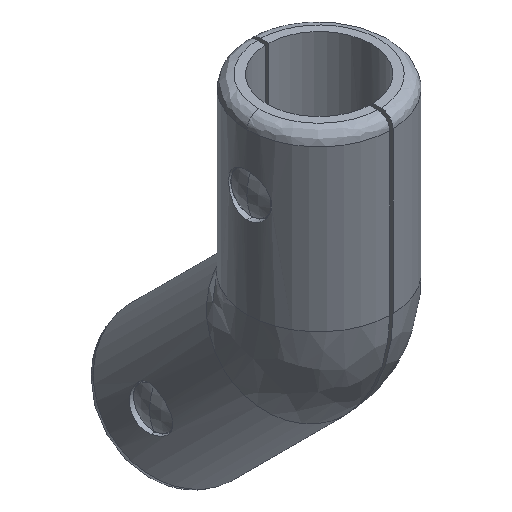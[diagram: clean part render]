
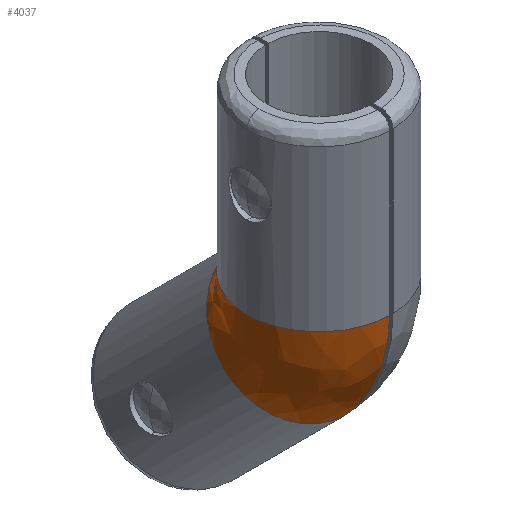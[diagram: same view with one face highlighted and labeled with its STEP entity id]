
A CAD part, isometric view. The second image highlights one B-rep face of the part: STEP entity #4037.
In plain terms, the highlighted free-form (B-spline) face has degree [3, 3] with [4, 4] control points.
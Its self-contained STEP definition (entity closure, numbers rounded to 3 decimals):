
#60 = CARTESIAN_POINT ( 'NONE',  ( -0.5, -7.816, -81.874 ) ) ;
#199 = CARTESIAN_POINT ( 'NONE',  ( -0.5, 21.874, -52.184 ) ) ;
#452 =( BOUNDED_SURFACE ( )  B_SPLINE_SURFACE ( 3, 3, ( 
 ( #3845, #4264, #3457, #1779 ),
 ( #3857, #2645, #1362, #3039 ),
 ( #4647, #982, #5033, #2601 ),
 ( #5021, #5067, #1379, #199 ) ),
 .UNSPECIFIED., .F., .F., .T. ) 
 B_SPLINE_SURFACE_WITH_KNOTS ( ( 4, 4 ),
 ( 4, 4 ),
 ( 0., 1. ),
 ( 0., 1. ),
 .UNSPECIFIED. ) 
 GEOMETRIC_REPRESENTATION_ITEM ( )  RATIONAL_B_SPLINE_SURFACE ( (
 ( 1., 0.949, 0.949, 1.),
 ( 0.349, 0.331, 0.331, 0.349),
 ( 0.349, 0.331, 0.331, 0.349),
 ( 1., 0.949, 0.949, 1.) ) ) 
 REPRESENTATION_ITEM ( '' )  SURFACE ( )  );
#469 = VERTEX_POINT ( 'NONE', #60 ) ;
#686 = AXIS2_PLACEMENT_3D ( 'NONE', #4977, #891, #3791 ) ;
#831 = ORIENTED_EDGE ( 'NONE', *, *, #2728, .T. ) ;
#891 = DIRECTION ( 'NONE',  ( 1., 0., 0. ) ) ;
#982 = CARTESIAN_POINT ( 'NONE',  ( -40.568, 20.04, -51.123 ) ) ;
#1231 = ORIENTED_EDGE ( 'NONE', *, *, #2514, .F. ) ;
#1294 = CIRCLE ( 'NONE', #686, 3.006 ) ;
#1362 = CARTESIAN_POINT ( 'NONE',  ( -40.568, -15.51, -72.83 ) ) ;
#1379 = CARTESIAN_POINT ( 'NONE',  ( -0.5, 21.303, -51.613 ) ) ;
#1655 = DIRECTION ( 'NONE',  ( 0., -1., 0. ) ) ;
#1671 = DIRECTION ( 'NONE',  ( -1., 0., 0. ) ) ;
#1700 = CARTESIAN_POINT ( 'NONE',  ( -0.5, 21.874, -52.184 ) ) ;
#1779 = CARTESIAN_POINT ( 'NONE',  ( -0.5, -7.816, -81.874 ) ) ;
#2056 = ORIENTED_EDGE ( 'NONE', *, *, #3595, .T. ) ;
#2180 = DIRECTION ( 'NONE',  ( 0., 0.707, -0.707 ) ) ;
#2216 = CARTESIAN_POINT ( 'NONE',  ( 0., 7.029, -67.029 ) ) ;
#2395 = AXIS2_PLACEMENT_3D ( 'NONE', #4901, #1671, #3260 ) ;
#2514 = EDGE_CURVE ( 'NONE', #469, #2845, #2766, .T. ) ;
#2547 = CIRCLE ( 'NONE', #2395, 44.994 ) ;
#2601 = CARTESIAN_POINT ( 'NONE',  ( -40.568, 21.2, -52.859 ) ) ;
#2645 = CARTESIAN_POINT ( 'NONE',  ( -40.568, -20.04, -61.895 ) ) ;
#2681 = FACE_OUTER_BOUND ( 'NONE', #4859, .T. ) ;
#2711 = CIRCLE ( 'NONE', #5034, 21. ) ;
#2728 = EDGE_CURVE ( 'NONE', #469, #3084, #2547, .T. ) ;
#2758 = EDGE_CURVE ( 'NONE', #3084, #4114, #2711, .T. ) ;
#2766 = CIRCLE ( 'NONE', #4555, 21. ) ;
#2845 = VERTEX_POINT ( 'NONE', #1700 ) ;
#3039 = CARTESIAN_POINT ( 'NONE',  ( -40.568, -7.141, -81.2 ) ) ;
#3084 = VERTEX_POINT ( 'NONE', #5206 ) ;
#3260 = DIRECTION ( 'NONE',  ( 0., 0., -1. ) ) ;
#3429 = CARTESIAN_POINT ( 'NONE',  ( -0.5, 20.994, -50.059 ) ) ;
#3457 = CARTESIAN_POINT ( 'NONE',  ( -0.5, -16.366, -73.324 ) ) ;
#3595 = EDGE_CURVE ( 'NONE', #4114, #2845, #1294, .T. ) ;
#3791 = DIRECTION ( 'NONE',  ( 0., 0., -1. ) ) ;
#3845 = CARTESIAN_POINT ( 'NONE',  ( -0.5, -20.994, -50.059 ) ) ;
#3857 = CARTESIAN_POINT ( 'NONE',  ( -40.568, -20.04, -50.059 ) ) ;
#4037 = ADVANCED_FACE ( 'NONE', ( #2681 ), #452, .T. ) ;
#4095 = CARTESIAN_POINT ( 'NONE',  ( 0., 0., -50.059 ) ) ;
#4114 = VERTEX_POINT ( 'NONE', #3429 ) ;
#4142 = DIRECTION ( 'NONE',  ( 0., 0., -1. ) ) ;
#4264 = CARTESIAN_POINT ( 'NONE',  ( -0.5, -20.994, -62.152 ) ) ;
#4342 = ORIENTED_EDGE ( 'NONE', *, *, #2758, .T. ) ;
#4555 = AXIS2_PLACEMENT_3D ( 'NONE', #2216, #2180, #5030 ) ;
#4647 = CARTESIAN_POINT ( 'NONE',  ( -40.568, 20.04, -50.059 ) ) ;
#4859 = EDGE_LOOP ( 'NONE', ( #1231, #831, #4342, #2056 ) ) ;
#4901 = CARTESIAN_POINT ( 'NONE',  ( -0.5, 24., -50.059 ) ) ;
#4977 = CARTESIAN_POINT ( 'NONE',  ( -0.5, 24., -50.059 ) ) ;
#5021 = CARTESIAN_POINT ( 'NONE',  ( -0.5, 20.994, -50.059 ) ) ;
#5030 = DIRECTION ( 'NONE',  ( 0., 0.707, 0.707 ) ) ;
#5033 = CARTESIAN_POINT ( 'NONE',  ( -40.568, 20.447, -52.107 ) ) ;
#5034 = AXIS2_PLACEMENT_3D ( 'NONE', #4095, #4142, #1655 ) ;
#5067 = CARTESIAN_POINT ( 'NONE',  ( -0.5, 20.994, -50.867 ) ) ;
#5206 = CARTESIAN_POINT ( 'NONE',  ( -0.5, -20.994, -50.059 ) ) ;
